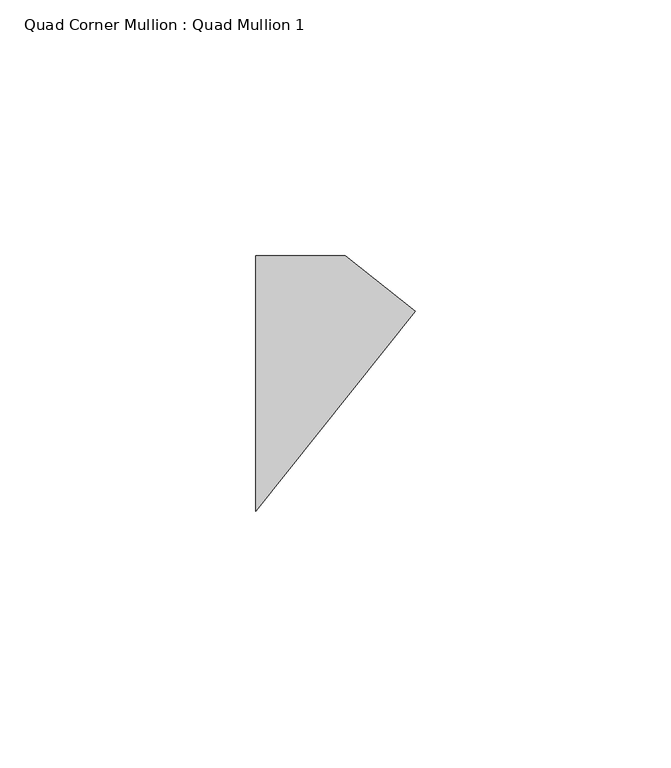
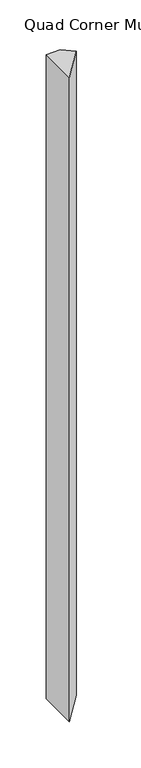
"""IFC4 building model written with IfcOpenShell, lengths in millimetres: member geometry, Quad Corner Mullion : Quad Mullion 1."""

from ifc_helpers import new_model, si_unit, frame, origin, place, context, project, spatial, polyline, outline, extrude, source, transform, mapped, element, save


def quad_corner_mullion_quad_mullion_1_36ee2d34(model_context):
    return source(origin(), model_context, "Body", "SweptSolid", [
        extrude(outline(polyline([(22.4169637, 14.1035695), (-8.7424787, -25.0), (-8.7424787, 25.0), (8.7424787, 25.0), (22.4169637, 14.1035695)])), frame((0.0, 0.0, -850.0), z_axis=(0.0, 0.0, 1.0), x_axis=(1.0, 0.0, 0.0)), (0.0, 0.0, 1.0), 850.0),
    ])


if __name__ == "__main__":
    model = new_model("IFC4")
    model_context = context("Model", 3, world=origin())
    ifc_project = project(units=[si_unit("LENGTHUNIT", "METRE", prefix="MILLI")], contexts=[model_context])
    site = spatial("IfcSite", under=ifc_project)
    building = spatial("IfcBuilding", under=site)
    placement = place(None, origin())
    quad_corner_mullion_quad_mullion_1_shape = quad_corner_mullion_quad_mullion_1_36ee2d34(model_context)
    element("IfcMember", 1, ObjectType="Quad Corner Mullion : Quad Mullion 1", at=placement, inside=building, context=model_context, shape_type="MappedRepresentation", body=[
        mapped(quad_corner_mullion_quad_mullion_1_shape, transform((0.0, 0.0, 0.0), x_axis=(1.0, 0.0, 0.0), y_axis=(0.0, 1.0, 0.0), z_axis=(0.0, 0.0, 1.0))),
    ])
    save(model, "model.ifc")
